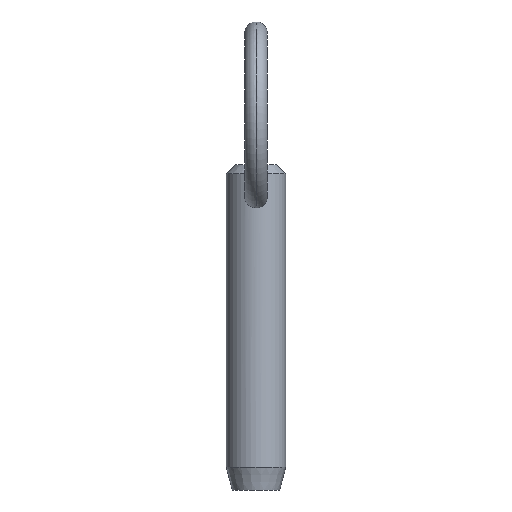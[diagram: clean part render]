
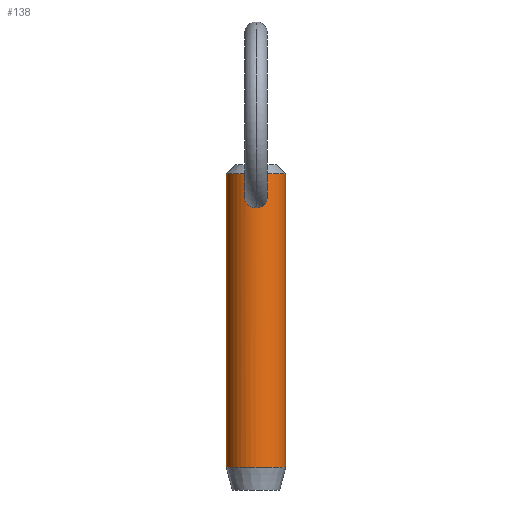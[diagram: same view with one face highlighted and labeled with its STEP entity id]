
A CAD part, front view. The second image highlights one B-rep face of the part: STEP entity #138.
In plain terms, the highlighted cylindrical face has radius 3.965 mm (diameter 7.93 mm), a partial arc.
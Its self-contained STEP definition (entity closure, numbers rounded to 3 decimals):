
#4 = VECTOR ( 'NONE', #151, 1000. ) ;
#8 = CARTESIAN_POINT ( 'NONE',  ( 0.205, -3.965, 28.035 ) ) ;
#13 = CARTESIAN_POINT ( 'NONE',  ( -1.441, -3.695, 30.008 ) ) ;
#14 = CARTESIAN_POINT ( 'NONE',  ( 1.404, -3.708, 30.101 ) ) ;
#19 = CARTESIAN_POINT ( 'NONE',  ( 1.499, -3.671, 29.397 ) ) ;
#30 = EDGE_LOOP ( 'NONE', ( #210, #350 ) ) ;
#31 = VERTEX_POINT ( 'NONE', #199 ) ;
#34 = CARTESIAN_POINT ( 'NONE',  ( 0., 0., 27.4 ) ) ;
#52 = CARTESIAN_POINT ( 'NONE',  ( -1.379, -3.718, 28.903 ) ) ;
#53 = CARTESIAN_POINT ( 'NONE',  ( 1.237, -3.77, 28.631 ) ) ;
#55 = CARTESIAN_POINT ( 'NONE',  ( -1.48, -3.679, 29.189 ) ) ;
#65 = CIRCLE ( 'NONE', #260, 3.965 ) ;
#66 = DIRECTION ( 'NONE',  ( -1., 0., 0. ) ) ;
#68 = FACE_OUTER_BOUND ( 'NONE', #358, .T. ) ;
#70 = CARTESIAN_POINT ( 'NONE',  ( 0., 0., 32.55 ) ) ;
#94 = CARTESIAN_POINT ( 'NONE',  ( 0.925, -3.858, 30.868 ) ) ;
#95 = CARTESIAN_POINT ( 'NONE',  ( 1.186, -3.786, 30.559 ) ) ;
#96 = CARTESIAN_POINT ( 'NONE',  ( 1.479, -3.679, 29.807 ) ) ;
#99 = CARTESIAN_POINT ( 'NONE',  ( 0.949, -3.851, 28.349 ) ) ;
#111 = DIRECTION ( 'NONE',  ( 0., 0., -1. ) ) ;
#130 = CARTESIAN_POINT ( 'NONE',  ( 0., -3.965, 31.247 ) ) ;
#132 = VERTEX_POINT ( 'NONE', #471 ) ;
#134 = CARTESIAN_POINT ( 'NONE',  ( -0.206, -3.961, 31.234 ) ) ;
#136 = CARTESIAN_POINT ( 'NONE',  ( -0.77, -3.894, 31. ) ) ;
#137 = CARTESIAN_POINT ( 'NONE',  ( 0., 0., -6.52 ) ) ;
#138 = ADVANCED_FACE ( 'NONE', ( #68, #470 ), #450, .T. ) ;
#145 = AXIS2_PLACEMENT_3D ( 'NONE', #70, #111, #460 ) ;
#151 = DIRECTION ( 'NONE',  ( 0., 0., -1. ) ) ;
#170 = CARTESIAN_POINT ( 'NONE',  ( -1.168, -3.79, 28.559 ) ) ;
#172 = CARTESIAN_POINT ( 'NONE',  ( 1.291, -3.75, 30.383 ) ) ;
#175 = CARTESIAN_POINT ( 'NONE',  ( 0.404, -3.946, 31.182 ) ) ;
#177 = CARTESIAN_POINT ( 'NONE',  ( 0.205, -3.961, 31.234 ) ) ;
#178 = EDGE_CURVE ( 'NONE', #361, #282, #415, .T. ) ;
#180 = CARTESIAN_POINT ( 'NONE',  ( 1.447, -3.692, 29.093 ) ) ;
#181 = LINE ( 'NONE', #247, #4 ) ;
#183 = CARTESIAN_POINT ( 'NONE',  ( -0.102, -3.965, 31.247 ) ) ;
#194 = CARTESIAN_POINT ( 'NONE',  ( -0.41, -3.948, 28.074 ) ) ;
#199 = CARTESIAN_POINT ( 'NONE',  ( 3.965, 0., -6.52 ) ) ;
#210 = ORIENTED_EDGE ( 'NONE', *, *, #250, .T. ) ;
#217 = B_SPLINE_CURVE_WITH_KNOTS ( 'NONE', 3,
 ( #339, #335, #177, #175, #485, #338, #94, #95, #172, #14, #372, #96, #223, #269, #19, #440, #180, #264, #53, #341, #99, #376, #448, #225, #8, #297 ),
 .UNSPECIFIED., .F., .F.,
 ( 4, 2, 2, 2, 2, 2, 2, 2, 2, 2, 2, 2, 4 ),
 ( 0.004, 0.005, 0.005, 0.005, 0.006, 0.006, 0.007, 0.007, 0.007, 0.008, 0.008, 0.008, 0.009 ),
 .UNSPECIFIED. ) ;
#223 = CARTESIAN_POINT ( 'NONE',  ( 1.493, -3.673, 29.704 ) ) ;
#224 = CARTESIAN_POINT ( 'NONE',  ( -0.403, -3.946, 31.182 ) ) ;
#225 = CARTESIAN_POINT ( 'NONE',  ( 0.409, -3.948, 28.074 ) ) ;
#243 = VERTEX_POINT ( 'NONE', #483 ) ;
#247 = CARTESIAN_POINT ( 'NONE',  ( 3.965, 0., 27.4 ) ) ;
#250 = EDGE_CURVE ( 'NONE', #132, #243, #217, .T. ) ;
#260 = AXIS2_PLACEMENT_3D ( 'NONE', #137, #422, #66 ) ;
#263 = CARTESIAN_POINT ( 'NONE',  ( -1.186, -3.786, 30.56 ) ) ;
#264 = CARTESIAN_POINT ( 'NONE',  ( 1.346, -3.73, 28.808 ) ) ;
#265 = CARTESIAN_POINT ( 'NONE',  ( -1.335, -3.734, 28.81 ) ) ;
#269 = CARTESIAN_POINT ( 'NONE',  ( 1.503, -3.669, 29.499 ) ) ;
#271 = CARTESIAN_POINT ( 'NONE',  ( -1.488, -3.675, 29.805 ) ) ;
#272 = CARTESIAN_POINT ( 'NONE',  ( 3.965, 0., 32.55 ) ) ;
#282 = VERTEX_POINT ( 'NONE', #379 ) ;
#286 = DIRECTION ( 'NONE',  ( 0., 0., -1. ) ) ;
#297 = CARTESIAN_POINT ( 'NONE',  ( 0., -3.965, 28.035 ) ) ;
#307 = CARTESIAN_POINT ( 'NONE',  ( -1.508, -3.667, 29.397 ) ) ;
#308 = ORIENTED_EDGE ( 'NONE', *, *, #502, .T. ) ;
#314 = B_SPLINE_CURVE_WITH_KNOTS ( 'NONE', 3,
 ( #505, #342, #194, #328, #412, #170, #421, #265, #52, #55, #307, #271, #13, #441, #263, #484, #136, #443, #224, #134, #183, #130 ),
 .UNSPECIFIED., .F., .F.,
 ( 4, 2, 2, 2, 2, 2, 2, 2, 2, 2, 4 ),
 ( 0.009, 0.01, 0.01, 0.011, 0.011, 0.012, 0.012, 0.013, 0.013, 0.014, 0.014 ),
 .UNSPECIFIED. ) ;
#315 = EDGE_CURVE ( 'NONE', #282, #31, #65, .T. ) ;
#318 = VERTEX_POINT ( 'NONE', #272 ) ;
#323 = DIRECTION ( 'NONE',  ( 0., 0., -1. ) ) ;
#328 = CARTESIAN_POINT ( 'NONE',  ( -0.788, -3.891, 28.228 ) ) ;
#335 = CARTESIAN_POINT ( 'NONE',  ( 0.102, -3.965, 31.247 ) ) ;
#336 = ORIENTED_EDGE ( 'NONE', *, *, #178, .T. ) ;
#338 = CARTESIAN_POINT ( 'NONE',  ( 0.77, -3.894, 31. ) ) ;
#339 = CARTESIAN_POINT ( 'NONE',  ( 0., -3.965, 31.247 ) ) ;
#341 = CARTESIAN_POINT ( 'NONE',  ( 1.028, -3.83, 28.415 ) ) ;
#342 = CARTESIAN_POINT ( 'NONE',  ( -0.205, -3.965, 28.035 ) ) ;
#344 = CARTESIAN_POINT ( 'NONE',  ( -3.965, 0., 32.55 ) ) ;
#350 = ORIENTED_EDGE ( 'NONE', *, *, #511, .T. ) ;
#351 = VECTOR ( 'NONE', #286, 1000. ) ;
#352 = DIRECTION ( 'NONE',  ( -1., 0., 0. ) ) ;
#358 = EDGE_LOOP ( 'NONE', ( #464, #308, #336, #463 ) ) ;
#361 = VERTEX_POINT ( 'NONE', #344 ) ;
#372 = CARTESIAN_POINT ( 'NONE',  ( 1.434, -3.697, 30.005 ) ) ;
#376 = CARTESIAN_POINT ( 'NONE',  ( 0.782, -3.888, 28.237 ) ) ;
#379 = CARTESIAN_POINT ( 'NONE',  ( -3.965, 0., -6.52 ) ) ;
#412 = CARTESIAN_POINT ( 'NONE',  ( -0.957, -3.85, 28.341 ) ) ;
#415 = LINE ( 'NONE', #431, #351 ) ;
#421 = CARTESIAN_POINT ( 'NONE',  ( -1.229, -3.77, 28.639 ) ) ;
#422 = DIRECTION ( 'NONE',  ( 0., 0., 1. ) ) ;
#431 = CARTESIAN_POINT ( 'NONE',  ( -3.965, 0., 27.4 ) ) ;
#435 = CIRCLE ( 'NONE', #145, 3.965 ) ;
#440 = CARTESIAN_POINT ( 'NONE',  ( 1.471, -3.682, 29.194 ) ) ;
#441 = CARTESIAN_POINT ( 'NONE',  ( -1.29, -3.75, 30.385 ) ) ;
#443 = CARTESIAN_POINT ( 'NONE',  ( -0.498, -3.935, 31.144 ) ) ;
#448 = CARTESIAN_POINT ( 'NONE',  ( 0.693, -3.905, 28.19 ) ) ;
#450 = CYLINDRICAL_SURFACE ( 'NONE', #462, 3.965 ) ;
#460 = DIRECTION ( 'NONE',  ( 1., 0., 0. ) ) ;
#462 = AXIS2_PLACEMENT_3D ( 'NONE', #34, #323, #352 ) ;
#463 = ORIENTED_EDGE ( 'NONE', *, *, #315, .T. ) ;
#464 = ORIENTED_EDGE ( 'NONE', *, *, #465, .F. ) ;
#465 = EDGE_CURVE ( 'NONE', #318, #31, #181, .T. ) ;
#470 = FACE_BOUND ( 'NONE', #30, .T. ) ;
#471 = CARTESIAN_POINT ( 'NONE',  ( 0., -3.965, 31.247 ) ) ;
#483 = CARTESIAN_POINT ( 'NONE',  ( 0., -3.965, 28.035 ) ) ;
#484 = CARTESIAN_POINT ( 'NONE',  ( -0.925, -3.858, 30.868 ) ) ;
#485 = CARTESIAN_POINT ( 'NONE',  ( 0.498, -3.935, 31.144 ) ) ;
#502 = EDGE_CURVE ( 'NONE', #318, #361, #435, .T. ) ;
#505 = CARTESIAN_POINT ( 'NONE',  ( 0., -3.965, 28.035 ) ) ;
#511 = EDGE_CURVE ( 'NONE', #243, #132, #314, .T. ) ;
